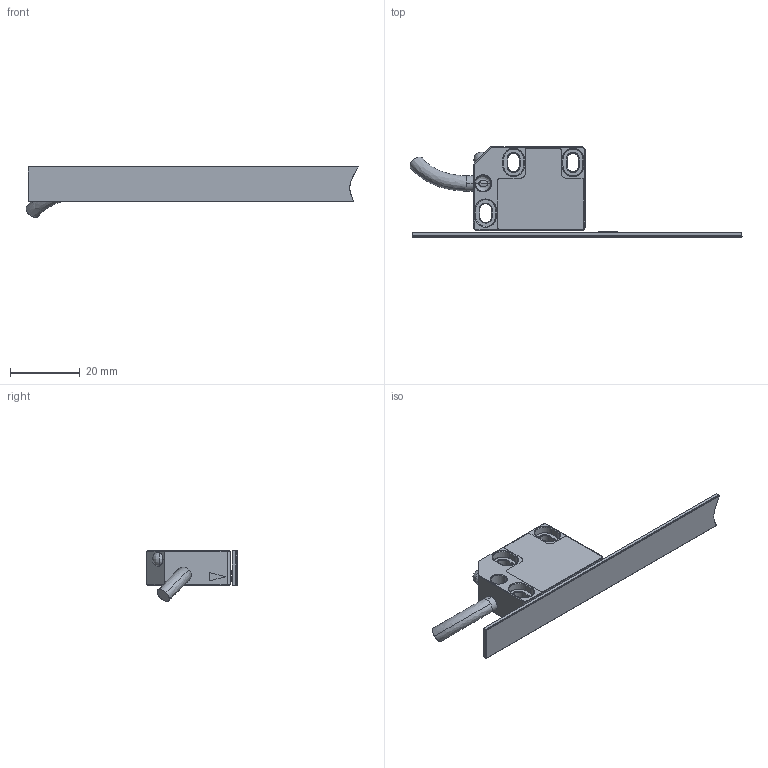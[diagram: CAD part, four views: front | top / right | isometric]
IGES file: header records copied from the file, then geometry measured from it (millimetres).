
Start section: SolidWorks IGES file using analytic representation for surfaces
Global section: file name: D:\Dokumenti\MOJI-DOKUMENTI2009-jan-jun\SWdatoteke\LM10\3Dpredstavitveni-modeli\new\LM10-assembly.IGS; native system: SolidWorks 2009; preprocessor: SolidWorks 2009; author: cerar; date: 090519.113941; units: millimetre
Bounding box: 95.09 x 25.9 x 14.58 mm (x, y, z)
Surface area: 5446.4 mm2 (no closed solid volume)
Topology: 0 solids, 0 shells, 201 faces, 1814 edges, 1814 vertices
Faces by surface type: bspline 125, revolution 76
